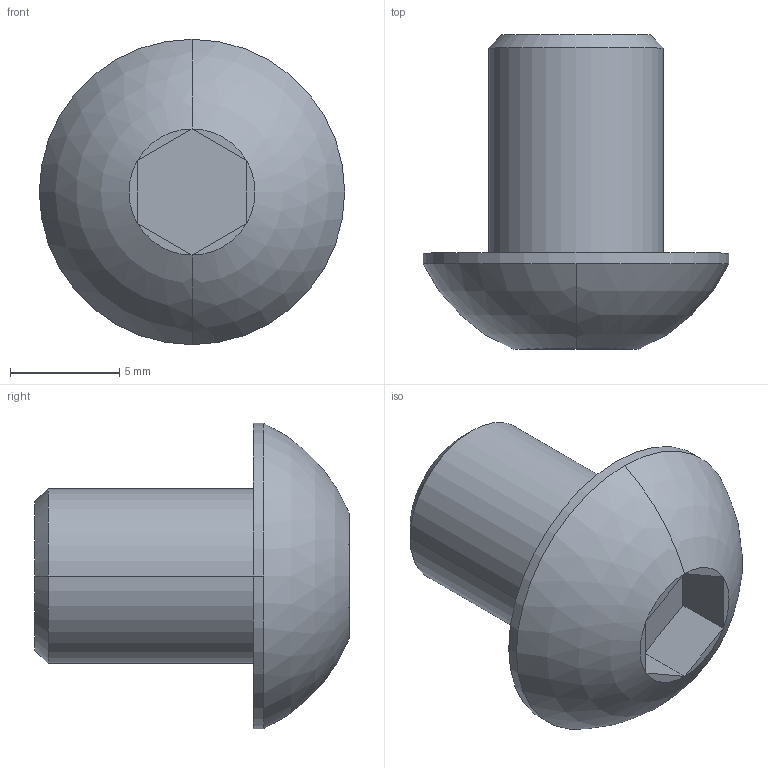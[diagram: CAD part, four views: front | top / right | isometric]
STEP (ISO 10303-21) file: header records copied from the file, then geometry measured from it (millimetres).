
FILE_DESCRIPTION((''),'2;1');
FILE_NAME('VTBEI0810','2002-12-27T',('Lipro doo'),('Lipro d.o.o.'),'PRO/ENGINEER BY PARAMETRIC TECHNOLOGY CORPORATION, 2001150','PRO/ENGINEER BY PARAMETRIC TECHNOLOGY CORPORATION, 2001150','');
FILE_SCHEMA(('CONFIG_CONTROL_DESIGN'));
Length unit declared in the file: millimetre
Products named in the file (1): VTBEI0810
Bounding box: 14 x 14.4 x 14 mm (x, y, z)
Volume: 901.3 mm3; surface area: 892.1 mm2
Topology: 1 solids, 2 shells, 25 faces, 50 edges, 28 vertices
Faces by surface type: plane 15, cylinder 6, cone 2, sphere 2
Entity records: 684 total; most frequent: DIRECTION 126, CARTESIAN_POINT 104, ORIENTED_EDGE 96, AXIS2_PLACEMENT_3D 50, EDGE_CURVE 50, VERTEX_POINT 28, VECTOR 26, LINE 26
